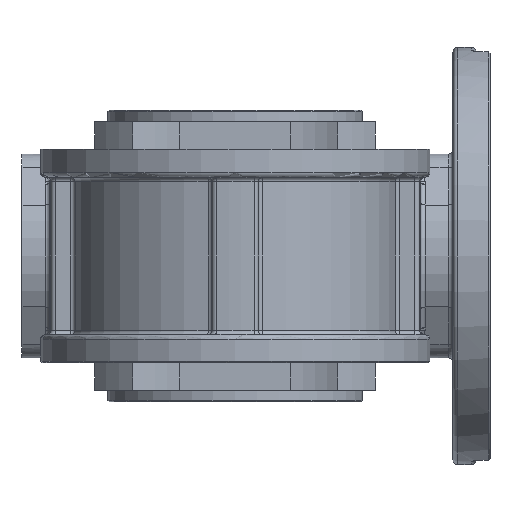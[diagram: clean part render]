
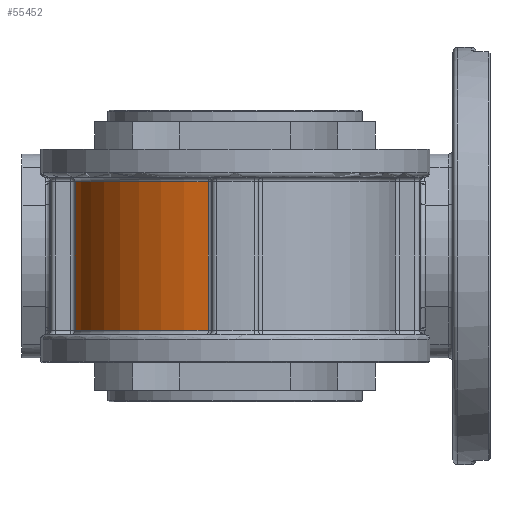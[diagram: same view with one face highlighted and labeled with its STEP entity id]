
A CAD part, front view. The second image highlights one B-rep face of the part: STEP entity #55452.
In plain terms, the highlighted cylindrical face has radius 35 mm (diameter 70 mm), a partial arc.
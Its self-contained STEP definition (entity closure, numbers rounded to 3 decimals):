
#30647 = DIRECTION ( 'NONE',  ( 1., 0., 0. ) ) ;
#30648 = DIRECTION ( 'NONE',  ( 0., 0., -1. ) ) ;
#30649 = CARTESIAN_POINT ( 'NONE',  ( 0., -30., 16. ) ) ;
#30650 = AXIS2_PLACEMENT_3D ( 'NONE', #30649, #30648, #30647 ) ;
#30651 = CIRCLE ( 'NONE', #30650, 35. ) ;
#30653 = CARTESIAN_POINT ( 'NONE',  ( -5.833, -64.51, 16. ) ) ;
#30668 = CARTESIAN_POINT ( 'NONE',  ( 0., -30., -16. ) ) ;
#30669 = AXIS2_PLACEMENT_3D ( 'NONE', #30668, #30731, #30730 ) ;
#30670 = CIRCLE ( 'NONE', #30669, 35. ) ;
#30671 = CARTESIAN_POINT ( 'NONE',  ( -34.51, -35.833, -16. ) ) ;
#30672 = CARTESIAN_POINT ( 'NONE',  ( -34.51, -35.833, 16. ) ) ;
#30673 = DIRECTION ( 'NONE',  ( 0., 0., -1. ) ) ;
#30674 = VECTOR ( 'NONE', #30673, 1000. ) ;
#30675 = CARTESIAN_POINT ( 'NONE',  ( -34.51, -35.833, -17. ) ) ;
#30676 = DIRECTION ( 'NONE',  ( 1., 0., 0. ) ) ;
#30677 = DIRECTION ( 'NONE',  ( 0., 0., 1. ) ) ;
#30678 = CARTESIAN_POINT ( 'NONE',  ( 0., -30., -17. ) ) ;
#30679 = AXIS2_PLACEMENT_3D ( 'NONE', #30678, #30677, #30676 ) ;
#30680 = CYLINDRICAL_SURFACE ( 'NONE', #30679, 35. ) ;
#30681 = LINE ( 'NONE', #30675, #30674 ) ;
#30682 = FACE_OUTER_BOUND ( 'NONE', #55453, .T. ) ;
#30725 = DIRECTION ( 'NONE',  ( 0., 0., 1. ) ) ;
#30726 = VECTOR ( 'NONE', #30725, 1000. ) ;
#30727 = CARTESIAN_POINT ( 'NONE',  ( -5.833, -64.51, -17. ) ) ;
#30728 = LINE ( 'NONE', #30727, #30726 ) ;
#30729 = CARTESIAN_POINT ( 'NONE',  ( -5.833, -64.51, -16. ) ) ;
#30730 = DIRECTION ( 'NONE',  ( 1., 0., 0. ) ) ;
#30731 = DIRECTION ( 'NONE',  ( 0., 0., 1. ) ) ;
#55433 = VERTEX_POINT ( 'NONE', #30653 ) ;
#55434 = ORIENTED_EDGE ( 'NONE', *, *, #55435, .T. ) ;
#55435 = EDGE_CURVE ( 'NONE', #55433, #55456, #30651, .T. ) ;
#55452 = ADVANCED_FACE ( 'NONE', ( #30682 ), #30680, .T. ) ;
#55453 = EDGE_LOOP ( 'NONE', ( #55454, #55458, #55461, #55434 ) ) ;
#55454 = ORIENTED_EDGE ( 'NONE', *, *, #55455, .T. ) ;
#55455 = EDGE_CURVE ( 'NONE', #55456, #55457, #30681, .T. ) ;
#55456 = VERTEX_POINT ( 'NONE', #30672 ) ;
#55457 = VERTEX_POINT ( 'NONE', #30671 ) ;
#55458 = ORIENTED_EDGE ( 'NONE', *, *, #55459, .T. ) ;
#55459 = EDGE_CURVE ( 'NONE', #55457, #55460, #30670, .T. ) ;
#55460 = VERTEX_POINT ( 'NONE', #30729 ) ;
#55461 = ORIENTED_EDGE ( 'NONE', *, *, #55463, .T. ) ;
#55463 = EDGE_CURVE ( 'NONE', #55460, #55433, #30728, .T. ) ;
